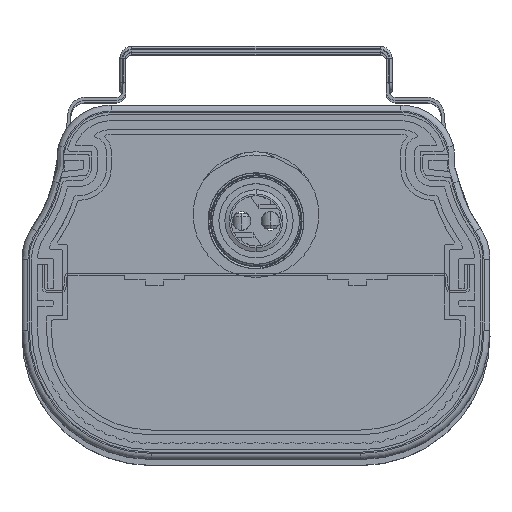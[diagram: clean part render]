
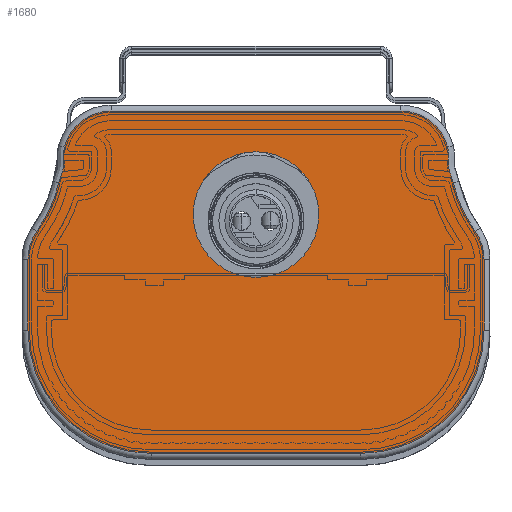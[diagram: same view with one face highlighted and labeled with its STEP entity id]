
A CAD part, top view. The second image highlights one B-rep face of the part: STEP entity #1680.
In plain terms, the highlighted planar face has unit normal (0, 0, 1) as drawn and (0, 0, -1) by its records, which use the part's own axes.
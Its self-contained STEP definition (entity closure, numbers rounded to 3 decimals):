
#10=CARTESIAN_POINT('',(0.,0.,3.));
#20=DIRECTION('',(0.,0.,1.));
#30=DIRECTION('',(1.,0.,0.));
#40=AXIS2_PLACEMENT_3D('',#10,#20,#30);
#50=PLANE('',#40);
#60=CARTESIAN_POINT('',(-38.1,36.,3.));
#70=DIRECTION('',(0.,-1.,0.));
#80=VECTOR('',#70,1.);
#90=LINE('',#60,#80);
#100=CARTESIAN_POINT('',(-38.1,36.,3.));
#110=VERTEX_POINT('',#100);
#120=CARTESIAN_POINT('',(-38.1,24.138,3.));
#130=VERTEX_POINT('',#120);
#140=EDGE_CURVE('',#110,#130,#90,.T.);
#150=ORIENTED_EDGE('',*,*,#140,.F.);
#160=CARTESIAN_POINT('',(-30.,24.138,3.));
#170=DIRECTION('',(-0.,0.,-1.));
#180=DIRECTION('',(-0.819,-0.573,0.));
#190=AXIS2_PLACEMENT_3D('',#160,#170,#180);
#200=CIRCLE('',#190,8.1);
#210=CARTESIAN_POINT('',(-36.637,19.494,3.));
#220=VERTEX_POINT('',#210);
#230=EDGE_CURVE('',#220,#130,#200,.T.);
#240=ORIENTED_EDGE('',*,*,#230,.T.);
#250=CARTESIAN_POINT('',(-32.95,11.376,3.));
#260=CARTESIAN_POINT('',(-33.161,12.299,3.));
#270=CARTESIAN_POINT('',(-33.715,14.133,3.));
#280=CARTESIAN_POINT('',(-34.943,16.882,3.));
#290=CARTESIAN_POINT('',(-36.028,18.633,3.));
#300=CARTESIAN_POINT('',(-36.637,19.494,3.));
#310=B_SPLINE_CURVE_WITH_KNOTS('',3,(#250,#260,#270,#280,#290,#300),
.UNSPECIFIED.,.F.,.F.,(4,1,1,4),(0.,0.333,0.667,
1.),.UNSPECIFIED.);
#320=CARTESIAN_POINT('',(-32.95,11.376,3.));
#330=VERTEX_POINT('',#320);
#340=EDGE_CURVE('',#330,#220,#310,.T.);
#350=ORIENTED_EDGE('',*,*,#340,.T.);
#360=CARTESIAN_POINT('',(-32.017,5.417,
3.));
#370=CARTESIAN_POINT('',(-32.077,5.641,
3.));
#380=CARTESIAN_POINT('',(-32.153,6.103,
3.));
#390=CARTESIAN_POINT('',(-32.166,6.832,
3.));
#400=CARTESIAN_POINT('',(-32.138,7.593,
3.));
#410=CARTESIAN_POINT('',(-32.132,8.249,
3.));
#420=CARTESIAN_POINT('',(-32.177,8.789,
3.));
#430=CARTESIAN_POINT('',(-32.249,9.196,
3.));
#440=CARTESIAN_POINT('',(-32.357,9.587,
3.));
#450=CARTESIAN_POINT('',(-32.523,10.085,
3.));
#460=CARTESIAN_POINT('',(-32.749,10.682,
3.));
#470=CARTESIAN_POINT('',(-32.895,11.144,
3.));
#480=CARTESIAN_POINT('',(-32.95,11.376,
3.));
#490=B_SPLINE_CURVE_WITH_KNOTS('',3,(#360,#370,#380,#390,#400,#410,#420,
#430,#440,#450,#460,#470,#480),.UNSPECIFIED.,.F.,.F.,(4,1,1,1,1,1,1,1,1,
1,4),(0.,0.125,0.25,0.375,0.5,0.563,0.625,0.688,0.75,0.875,1.),
.UNSPECIFIED.);
#500=CARTESIAN_POINT('',(-32.017,5.415,3.));
#510=VERTEX_POINT('',#500);
#520=EDGE_CURVE('',#510,#330,#490,.T.);
#530=ORIENTED_EDGE('',*,*,#520,.T.);
#540=CARTESIAN_POINT('',(-24.19,7.5,3.));
#550=DIRECTION('',(0.,-0.,-1.));
#560=DIRECTION('',(0.,-1.,0.));
#570=AXIS2_PLACEMENT_3D('',#540,#550,#560);
#580=CIRCLE('',#570,8.1);
#590=CARTESIAN_POINT('',(-24.19,-0.6,3.));
#600=VERTEX_POINT('',#590);
#610=EDGE_CURVE('',#600,#510,#580,.T.);
#620=ORIENTED_EDGE('',*,*,#610,.T.);
#630=CARTESIAN_POINT('',(-24.19,-0.6,3.));
#640=DIRECTION('',(1.,0.,0.));
#650=VECTOR('',#640,1.);
#660=LINE('',#630,#650);
#670=CARTESIAN_POINT('',(24.19,-0.6,3.));
#680=VERTEX_POINT('',#670);
#690=EDGE_CURVE('',#600,#680,#660,.T.);
#700=ORIENTED_EDGE('',*,*,#690,.F.);
#710=CARTESIAN_POINT('',(24.19,7.5,3.));
#720=DIRECTION('',(0.,-0.,-1.));
#730=DIRECTION('',(0.966,-0.257,0.));
#740=AXIS2_PLACEMENT_3D('',#710,#720,#730);
#750=CIRCLE('',#740,8.1);
#760=CARTESIAN_POINT('',(32.018,5.417,
3.));
#770=VERTEX_POINT('',#760);
#780=EDGE_CURVE('',#770,#680,#750,.T.);
#790=ORIENTED_EDGE('',*,*,#780,.T.);
#800=CARTESIAN_POINT('',(32.018,5.417,3.));
#810=CARTESIAN_POINT('',(32.053,5.551,3.));
#820=CARTESIAN_POINT('',(32.111,5.838,3.));
#830=CARTESIAN_POINT('',(32.157,6.317,3.));
#840=CARTESIAN_POINT('',(32.163,6.863,3.));
#850=CARTESIAN_POINT('',(32.141,7.496,3.));
#860=CARTESIAN_POINT('',(32.132,8.11,3.));
#870=CARTESIAN_POINT('',(32.164,8.686,3.));
#880=CARTESIAN_POINT('',(32.257,9.245,3.));
#890=CARTESIAN_POINT('',(32.421,9.807,3.));
#900=CARTESIAN_POINT('',(32.637,10.385,3.));
#910=CARTESIAN_POINT('',(32.836,10.933,3.));
#920=CARTESIAN_POINT('',(32.919,11.236,3.));
#930=CARTESIAN_POINT('',(32.95,11.376,3.));
#940=B_SPLINE_CURVE_WITH_KNOTS('',3,(#800,#810,#820,#830,#840,#850,#860,
#870,#880,#890,#900,#910,#920,#930),.UNSPECIFIED.,.F.,.F.,(4,1,1,1,1,1,1
,1,1,1,1,4),(0.,0.091,0.182,0.273,
0.364,0.455,0.545,0.636,
0.727,0.818,0.909,1.),.UNSPECIFIED.)
;
#950=CARTESIAN_POINT('',(32.95,11.376,3.));
#960=VERTEX_POINT('',#950);
#970=EDGE_CURVE('',#770,#960,#940,.T.);
#980=ORIENTED_EDGE('',*,*,#970,.F.);
#990=CARTESIAN_POINT('',(36.637,19.494,3.));
#1000=CARTESIAN_POINT('',(36.031,18.638,3.));
#1010=CARTESIAN_POINT('',(34.951,16.894,3.));
#1020=CARTESIAN_POINT('',(33.721,14.152,3.));
#1030=CARTESIAN_POINT('',(33.164,12.308,3.));
#1040=CARTESIAN_POINT('',(32.95,11.376,3.));
#1050=B_SPLINE_CURVE_WITH_KNOTS('',3,(#990,#1000,#1010,#1020,#1030,#1040
),.UNSPECIFIED.,.F.,.F.,(4,1,1,4),(0.,0.333,
0.667,1.),.UNSPECIFIED.);
#1060=CARTESIAN_POINT('',(36.637,19.494,3.));
#1070=VERTEX_POINT('',#1060);
#1080=EDGE_CURVE('',#1070,#960,#1050,.T.);
#1090=ORIENTED_EDGE('',*,*,#1080,.T.);
#1100=CARTESIAN_POINT('',(30.,24.138,3.));
#1110=DIRECTION('',(0.,0.,-1.));
#1120=DIRECTION('',(1.,0.,0.));
#1130=AXIS2_PLACEMENT_3D('',#1100,#1110,#1120);
#1140=CIRCLE('',#1130,8.1);
#1150=CARTESIAN_POINT('',(38.1,24.138,3.));
#1160=VERTEX_POINT('',#1150);
#1170=EDGE_CURVE('',#1160,#1070,#1140,.T.);
#1180=ORIENTED_EDGE('',*,*,#1170,.T.);
#1190=CARTESIAN_POINT('',(38.1,24.138,3.));
#1200=DIRECTION('',(0.,1.,0.));
#1210=VECTOR('',#1200,1.);
#1220=LINE('',#1190,#1210);
#1230=CARTESIAN_POINT('',(38.1,36.,3.));
#1240=VERTEX_POINT('',#1230);
#1250=EDGE_CURVE('',#1160,#1240,#1220,.T.);
#1260=ORIENTED_EDGE('',*,*,#1250,.F.);
#1270=CARTESIAN_POINT('',(17.5,36.,3.));
#1280=DIRECTION('',(0.,0.,-1.));
#1290=DIRECTION('',(0.,1.,0.));
#1300=AXIS2_PLACEMENT_3D('',#1270,#1280,#1290);
#1310=CIRCLE('',#1300,20.6);
#1320=CARTESIAN_POINT('',(17.5,56.6,3.));
#1330=VERTEX_POINT('',#1320);
#1340=EDGE_CURVE('',#1330,#1240,#1310,.T.);
#1350=ORIENTED_EDGE('',*,*,#1340,.T.);
#1360=CARTESIAN_POINT('',(17.5,56.6,3.));
#1370=DIRECTION('',(-1.,0.,0.));
#1380=VECTOR('',#1370,1.);
#1390=LINE('',#1360,#1380);
#1400=CARTESIAN_POINT('',(-17.5,56.6,3.));
#1410=VERTEX_POINT('',#1400);
#1420=EDGE_CURVE('',#1330,#1410,#1390,.T.);
#1430=ORIENTED_EDGE('',*,*,#1420,.F.);
#1440=CARTESIAN_POINT('',(-17.5,36.,3.));
#1450=DIRECTION('',(-0.,0.,-1.));
#1460=DIRECTION('',(-1.,0.,0.));
#1470=AXIS2_PLACEMENT_3D('',#1440,#1450,#1460);
#1480=CIRCLE('',#1470,20.6);
#1490=EDGE_CURVE('',#110,#1410,#1480,.T.);
#1500=ORIENTED_EDGE('',*,*,#1490,.T.);
#1510=EDGE_LOOP('',(#1500,#1430,#1350,#1260,#1180,#1090,#980,#790,#700,
#620,#530,#350,#240,#150));
#1520=FACE_OUTER_BOUND('',#1510,.T.);
#1530=CARTESIAN_POINT('',(0.,16.7,3.));
#1540=DIRECTION('',(0.,0.,1.));
#1550=DIRECTION('',(1.,0.,0.));
#1560=AXIS2_PLACEMENT_3D('',#1530,#1540,#1550);
#1570=CIRCLE('',#1560,10.5);
#1580=CARTESIAN_POINT('',(-10.5,16.7,3.));
#1590=VERTEX_POINT('',#1580);
#1600=CARTESIAN_POINT('',(10.5,16.7,3.));
#1610=VERTEX_POINT('',#1600);
#1620=EDGE_CURVE('',#1590,#1610,#1570,.T.);
#1630=ORIENTED_EDGE('',*,*,#1620,.T.);
#1640=EDGE_CURVE('',#1610,#1590,#1570,.T.);
#1650=ORIENTED_EDGE('',*,*,#1640,.T.);
#1660=EDGE_LOOP('',(#1650,#1630));
#1670=FACE_BOUND('',#1660,.T.);
#1680=ADVANCED_FACE('',(#1520,#1670),#50,.F.);
